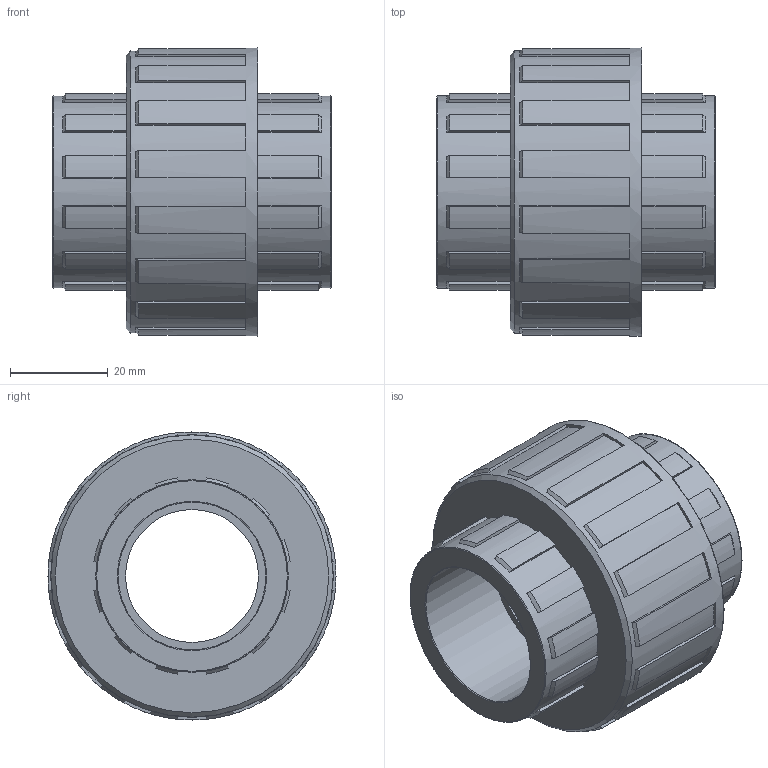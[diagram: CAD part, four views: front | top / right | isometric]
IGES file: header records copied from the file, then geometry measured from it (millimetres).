
Global section: file name: 050801010.ipt; native system: Autodesk Inventor 2015; preprocessor: unknown; author: KIM; date: 20171207.164926; units: millimetre
Bounding box: 57 x 59 x 59 mm (x, y, z)
Volume: 70904.6 mm3; surface area: 18852.3 mm2
Topology: 1 solids, 1 shells, 179 faces, 529 edges, 356 vertices
Faces by surface type: plane 102, cone 41, cylinder 28, revolution 8
Full cylindrical faces by diameter (mm): 39.372 x2, 57.82 x1, 59 x1
